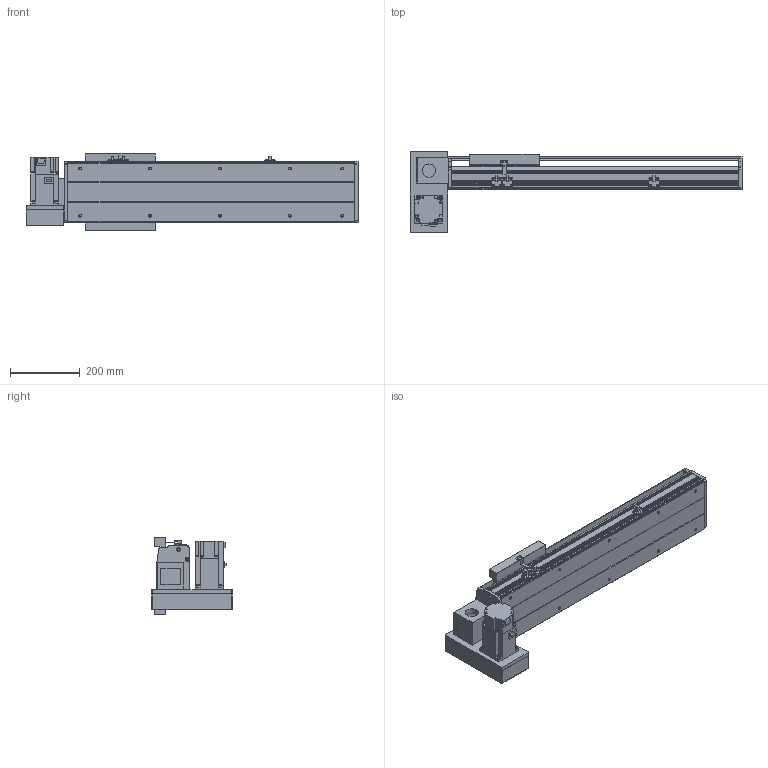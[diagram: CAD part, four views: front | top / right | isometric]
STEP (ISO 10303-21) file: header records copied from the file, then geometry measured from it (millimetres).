
FILE_DESCRIPTION(/* description */ ('STEP AP214'),/* implementation_level */ '2;1');
FILE_NAME(/* name */ 'PBS200-P40-S450-LD-T75-C1-N(0)',/* time_stamp */ '2022-06-11T08:43:28+02:00',/* author */ ('License CC BY-ND 4.0'),/* organization */ ('CADENAS'),/* preprocessor_version */ 'ST-DEVELOPER v18.102',/* originating_system */ 'PARTsolutions',/* authorisation */ ' ');
FILE_SCHEMA (('AUTOMOTIVE_DESIGN {1 0 10303 214 3 1 1}'));
Length unit declared in the file: millimetre
Products named in the file (7): PBS200-P40-S450-LD-T75-C1-N(0); PBS200_sensor; PBS200_plant; PBS200_sliser; T75-p1; PBS200T-LD_motors; PBS200-S450()_body
Assembly tree (8 placements, depth 2):
  PBS200-P40-S450-LD-T75-C1-N(0)
    PBS200_sensor  x3
    PBS200_plant
    PBS200_sliser
    T75-p1
    PBS200T-LD_motors
    PBS200-S450()_body
Bounding box: 950 x 230 x 221 mm (x, y, z)
Volume: 7802965.9 mm3; surface area: 1277988.9 mm2
Topology: 8 solids, 8 shells, 902 faces, 2344 edges, 1530 vertices
Faces by surface type: plane 568, cylinder 292, cone 42
Full cylindrical faces by diameter (mm): 2.459 x6, 3.242 x4, 4.5 x6, 4.917 x4, 5 x6, 6 x7, 6.6 x8, 6.647 x14, 8 x6, 10 x4, 12 x8, 38 x2, 40 x1, 70 x1
Entity records: 24221 total; most frequent: DIRECTION 4255, CARTESIAN_POINT 4138, ORIENTED_EDGE 3946, EDGE_CURVE 1973, AXIS2_PLACEMENT_3D 1471, VERTEX_POINT 1354, LINE 1313, VECTOR 1313
